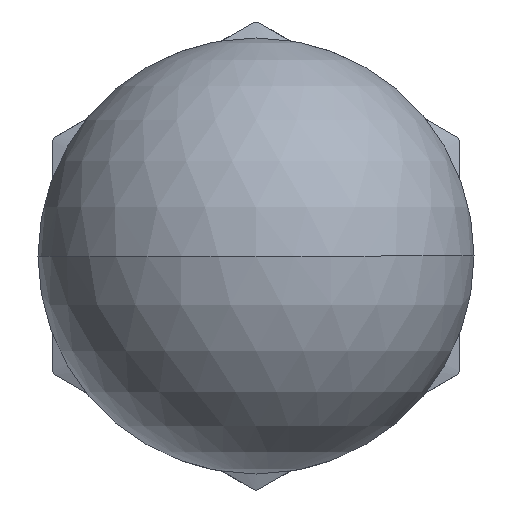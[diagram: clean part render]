
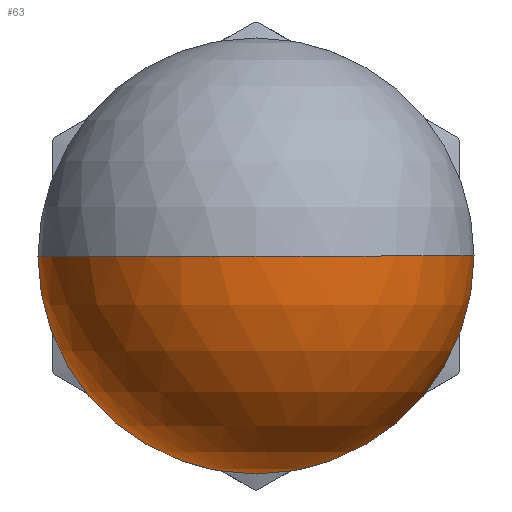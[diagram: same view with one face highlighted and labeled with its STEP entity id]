
A CAD part, front view. The second image highlights one B-rep face of the part: STEP entity #63.
In plain terms, the highlighted spherical face has radius 7.5 mm.
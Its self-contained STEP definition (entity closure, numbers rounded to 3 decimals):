
#63=ADVANCED_FACE('NONE',(#157),#158,.T.);
#157=FACE_OUTER_BOUND('',#280,.T.);
#158=SPHERICAL_SURFACE('',#281,7.5);
#280=EDGE_LOOP('',(#397,#398,#399,#400));
#281=AXIS2_PLACEMENT_3D('',#401,#402,#403);
#397=ORIENTED_EDGE('',*,*,#738,.F.);
#398=ORIENTED_EDGE('',*,*,#739,.F.);
#399=ORIENTED_EDGE('',*,*,#740,.T.);
#400=ORIENTED_EDGE('',*,*,#741,.F.);
#401=CARTESIAN_POINT('',(0.,-14.5,0.0));
#402=DIRECTION('',(0.0,0.0,1.0));
#403=DIRECTION('',(-1.0,0.,0.0));
#738=EDGE_CURVE('',#871,#872,#873,.T.);
#739=EDGE_CURVE('NONE',#874,#871,#875,.T.);
#740=EDGE_CURVE('NONE',#874,#876,#877,.T.);
#741=EDGE_CURVE('',#872,#876,#878,.T.);
#871=VERTEX_POINT('',#1063);
#872=VERTEX_POINT('',#1064);
#873=CIRCLE('',#1065,7.5);
#874=VERTEX_POINT('NONE',#1066);
#875=CIRCLE('',#1067,7.5);
#876=VERTEX_POINT('',#1068);
#877=CIRCLE('',#1069,7.5);
#878=CIRCLE('',#1070,7.5);
#1063=CARTESIAN_POINT('',(7.5,-14.5,0.));
#1064=CARTESIAN_POINT('',(0.,-14.5,-7.5));
#1065=AXIS2_PLACEMENT_3D('',#1420,#1421,#1422);
#1066=CARTESIAN_POINT('',(0.,-22.0,0.0));
#1067=AXIS2_PLACEMENT_3D('',#1423,#1424,#1425);
#1068=CARTESIAN_POINT('',(-7.5,-14.5,0.0));
#1069=AXIS2_PLACEMENT_3D('',#1426,#1427,#1428);
#1070=AXIS2_PLACEMENT_3D('',#1429,#1430,#1431);
#1420=CARTESIAN_POINT('',(0.,-14.5,0.0));
#1421=DIRECTION('',(-0.0,1.0,0.0));
#1422=DIRECTION('',(0.0,0.0,-1.0));
#1423=CARTESIAN_POINT('',(0.,-14.5,0.0));
#1424=DIRECTION('',(0.,0.,1.0));
#1425=DIRECTION('',(1.0,0.0,0.));
#1426=CARTESIAN_POINT('',(0.,-14.5,0.0));
#1427=DIRECTION('',(0.0,0.0,-1.0));
#1428=DIRECTION('',(-1.0,0.0,0.0));
#1429=CARTESIAN_POINT('',(0.,-14.5,0.0));
#1430=DIRECTION('',(-0.0,1.0,0.0));
#1431=DIRECTION('',(0.0,0.0,-1.0));
